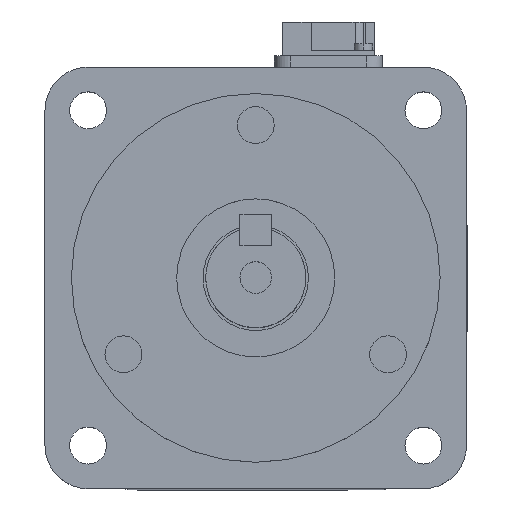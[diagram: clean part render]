
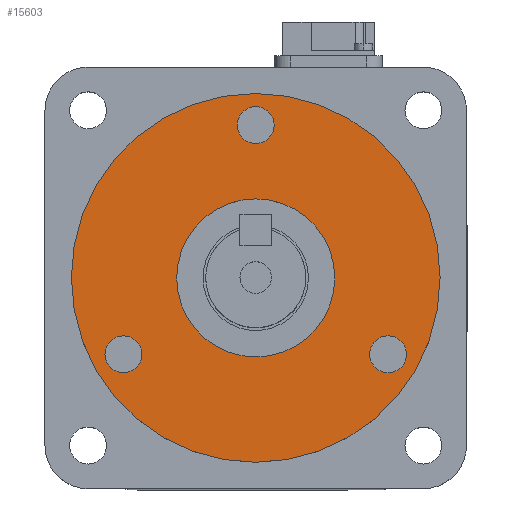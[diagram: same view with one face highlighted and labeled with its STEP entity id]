
A CAD part, top view. The second image highlights one B-rep face of the part: STEP entity #15603.
In plain terms, the highlighted planar face has unit normal (0, 0, 1).
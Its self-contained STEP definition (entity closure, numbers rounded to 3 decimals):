
#346 = VERTEX_POINT ( 'NONE', #4918 ) ;
#415 = EDGE_CURVE ( 'NONE', #2326, #2196, #5066, .T. ) ;
#499 = VERTEX_POINT ( 'NONE', #5150 ) ;
#529 = EDGE_CURVE ( 'NONE', #346, #531, #5246, .T. ) ;
#531 = VERTEX_POINT ( 'NONE', #5242 ) ;
#1700 = VERTEX_POINT ( 'NONE', #7296 ) ;
#1709 = EDGE_CURVE ( 'NONE', #1789, #1700, #7334, .T. ) ;
#1789 = VERTEX_POINT ( 'NONE', #7473 ) ;
#2196 = VERTEX_POINT ( 'NONE', #8194 ) ;
#2214 = VERTEX_POINT ( 'NONE', #8227 ) ;
#2216 = EDGE_CURVE ( 'NONE', #2214, #2217, #8225, .T. ) ;
#2217 = VERTEX_POINT ( 'NONE', #8283 ) ;
#2326 = VERTEX_POINT ( 'NONE', #8516 ) ;
#2917 = EDGE_CURVE ( 'NONE', #6056, #499, #9597, .T. ) ;
#4918 = CARTESIAN_POINT ( 'NONE',  ( -3.5, 29., 3. ) ) ;
#5062 = DIRECTION ( 'NONE',  ( -1., 0., 0. ) ) ;
#5063 = DIRECTION ( 'NONE',  ( 0., 0., -1. ) ) ;
#5064 = CARTESIAN_POINT ( 'NONE',  ( 0., 0., 3. ) ) ;
#5065 = AXIS2_PLACEMENT_3D ( 'NONE', #5064, #5063, #5062 ) ;
#5066 = CIRCLE ( 'NONE', #5065, 15. ) ;
#5150 = CARTESIAN_POINT ( 'NONE',  ( 35., 0., 3. ) ) ;
#5181 = CARTESIAN_POINT ( 'NONE',  ( 0., 29., 3. ) ) ;
#5242 = CARTESIAN_POINT ( 'NONE',  ( 3.5, 29., 3. ) ) ;
#5243 = DIRECTION ( 'NONE',  ( 1., 0., 0. ) ) ;
#5244 = DIRECTION ( 'NONE',  ( 0., 0., 1. ) ) ;
#5245 = AXIS2_PLACEMENT_3D ( 'NONE', #5181, #5244, #5243 ) ;
#5246 = CIRCLE ( 'NONE', #5245, 3.5 ) ;
#6056 = VERTEX_POINT ( 'NONE', #11851 ) ;
#7296 = CARTESIAN_POINT ( 'NONE',  ( -21.615, -14.5, 3. ) ) ;
#7330 = DIRECTION ( 'NONE',  ( -0.5, 0.866, 0. ) ) ;
#7331 = DIRECTION ( 'NONE',  ( 0., 0., 1. ) ) ;
#7332 = CARTESIAN_POINT ( 'NONE',  ( -25.115, -14.5, 3. ) ) ;
#7333 = AXIS2_PLACEMENT_3D ( 'NONE', #7332, #7331, #7330 ) ;
#7334 = CIRCLE ( 'NONE', #7333, 3.5 ) ;
#7473 = CARTESIAN_POINT ( 'NONE',  ( -28.615, -14.5, 3. ) ) ;
#8194 = CARTESIAN_POINT ( 'NONE',  ( -15., 0., 3. ) ) ;
#8222 = DIRECTION ( 'NONE',  ( 0., 0., 1. ) ) ;
#8223 = CARTESIAN_POINT ( 'NONE',  ( 25.115, -14.5, 3. ) ) ;
#8224 = AXIS2_PLACEMENT_3D ( 'NONE', #8223, #8222, #8284 ) ;
#8225 = CIRCLE ( 'NONE', #8224, 3.5 ) ;
#8227 = CARTESIAN_POINT ( 'NONE',  ( 21.615, -14.5, 3. ) ) ;
#8283 = CARTESIAN_POINT ( 'NONE',  ( 28.615, -14.5, 3. ) ) ;
#8284 = DIRECTION ( 'NONE',  ( -0.5, -0.866, 0. ) ) ;
#8516 = CARTESIAN_POINT ( 'NONE',  ( 15., 0., 3. ) ) ;
#9593 = DIRECTION ( 'NONE',  ( -1., 0., 0. ) ) ;
#9594 = DIRECTION ( 'NONE',  ( 0., 0., -1. ) ) ;
#9595 = CARTESIAN_POINT ( 'NONE',  ( 0., 0., 3. ) ) ;
#9596 = AXIS2_PLACEMENT_3D ( 'NONE', #9595, #9594, #9593 ) ;
#9597 = CIRCLE ( 'NONE', #9596, 35. ) ;
#11851 = CARTESIAN_POINT ( 'NONE',  ( -35., 0., 3. ) ) ;
#13920 = DIRECTION ( 'NONE',  ( 1., 0., 0. ) ) ;
#13921 = DIRECTION ( 'NONE',  ( 0., 0., 1. ) ) ;
#13922 = AXIS2_PLACEMENT_3D ( 'NONE', #13929, #13921, #13920 ) ;
#13923 = CIRCLE ( 'NONE', #13922, 3.5 ) ;
#13929 = CARTESIAN_POINT ( 'NONE',  ( 0., 29., 3. ) ) ;
#13944 = DIRECTION ( 'NONE',  ( -0.5, -0.866, 0. ) ) ;
#13945 = DIRECTION ( 'NONE',  ( 0., 0., 1. ) ) ;
#13946 = CARTESIAN_POINT ( 'NONE',  ( 25.115, -14.5, 3. ) ) ;
#13947 = AXIS2_PLACEMENT_3D ( 'NONE', #13946, #13945, #13944 ) ;
#13948 = CIRCLE ( 'NONE', #13947, 3.5 ) ;
#13949 = DIRECTION ( 'NONE',  ( -0.5, 0.866, 0. ) ) ;
#13950 = DIRECTION ( 'NONE',  ( 0., 0., 1. ) ) ;
#13952 = AXIS2_PLACEMENT_3D ( 'NONE', #13957, #13950, #13949 ) ;
#13953 = CIRCLE ( 'NONE', #13952, 3.5 ) ;
#13957 = CARTESIAN_POINT ( 'NONE',  ( -25.115, -14.5, 3. ) ) ;
#13987 = DIRECTION ( 'NONE',  ( -1., 0., 0. ) ) ;
#13988 = DIRECTION ( 'NONE',  ( 0., 0., -1. ) ) ;
#13989 = CARTESIAN_POINT ( 'NONE',  ( 0., 0., 3. ) ) ;
#13990 = AXIS2_PLACEMENT_3D ( 'NONE', #13989, #13988, #13987 ) ;
#13991 = CIRCLE ( 'NONE', #13990, 35. ) ;
#13996 = DIRECTION ( 'NONE',  ( 1., 0., 0. ) ) ;
#13997 = DIRECTION ( 'NONE',  ( 0., 0., 1. ) ) ;
#13998 = CARTESIAN_POINT ( 'NONE',  ( 0., 35., 3. ) ) ;
#13999 = AXIS2_PLACEMENT_3D ( 'NONE', #13998, #13997, #13996 ) ;
#14000 = PLANE ( 'NONE',  #13999 ) ;
#14001 = FACE_OUTER_BOUND ( 'NONE', #15636, .T. ) ;
#14002 = FACE_BOUND ( 'NONE', #15710, .T. ) ;
#14003 = FACE_BOUND ( 'NONE', #15575, .T. ) ;
#14004 = FACE_BOUND ( 'NONE', #15593, .T. ) ;
#14005 = FACE_BOUND ( 'NONE', #15397, .T. ) ;
#14154 = DIRECTION ( 'NONE',  ( -1., 0., 0. ) ) ;
#14155 = DIRECTION ( 'NONE',  ( 0., 0., -1. ) ) ;
#14156 = CARTESIAN_POINT ( 'NONE',  ( 0., 0., 3. ) ) ;
#14157 = AXIS2_PLACEMENT_3D ( 'NONE', #14156, #14155, #14154 ) ;
#14158 = CIRCLE ( 'NONE', #14157, 15. ) ;
#15397 = EDGE_LOOP ( 'NONE', ( #15599, #15582 ) ) ;
#15567 = EDGE_CURVE ( 'NONE', #531, #346, #13923, .T. ) ;
#15569 = ORIENTED_EDGE ( 'NONE', *, *, #15567, .F. ) ;
#15575 = EDGE_LOOP ( 'NONE', ( #15569, #15693 ) ) ;
#15582 = ORIENTED_EDGE ( 'NONE', *, *, #2216, .F. ) ;
#15583 = ORIENTED_EDGE ( 'NONE', *, *, #1709, .F. ) ;
#15587 = ORIENTED_EDGE ( 'NONE', *, *, #15594, .F. ) ;
#15593 = EDGE_LOOP ( 'NONE', ( #15587, #15583 ) ) ;
#15594 = EDGE_CURVE ( 'NONE', #1700, #1789, #13953, .T. ) ;
#15597 = EDGE_CURVE ( 'NONE', #2217, #2214, #13948, .T. ) ;
#15599 = ORIENTED_EDGE ( 'NONE', *, *, #15597, .F. ) ;
#15603 = ADVANCED_FACE ( 'NONE', ( #14005, #14004, #14003, #14002, #14001 ), #14000, .T. ) ;
#15610 = EDGE_CURVE ( 'NONE', #499, #6056, #13991, .T. ) ;
#15615 = ORIENTED_EDGE ( 'NONE', *, *, #15610, .F. ) ;
#15617 = ORIENTED_EDGE ( 'NONE', *, *, #2917, .F. ) ;
#15636 = EDGE_LOOP ( 'NONE', ( #15617, #15615 ) ) ;
#15677 = ORIENTED_EDGE ( 'NONE', *, *, #415, .T. ) ;
#15693 = ORIENTED_EDGE ( 'NONE', *, *, #529, .F. ) ;
#15710 = EDGE_LOOP ( 'NONE', ( #15711, #15677 ) ) ;
#15711 = ORIENTED_EDGE ( 'NONE', *, *, #15712, .T. ) ;
#15712 = EDGE_CURVE ( 'NONE', #2196, #2326, #14158, .T. ) ;
